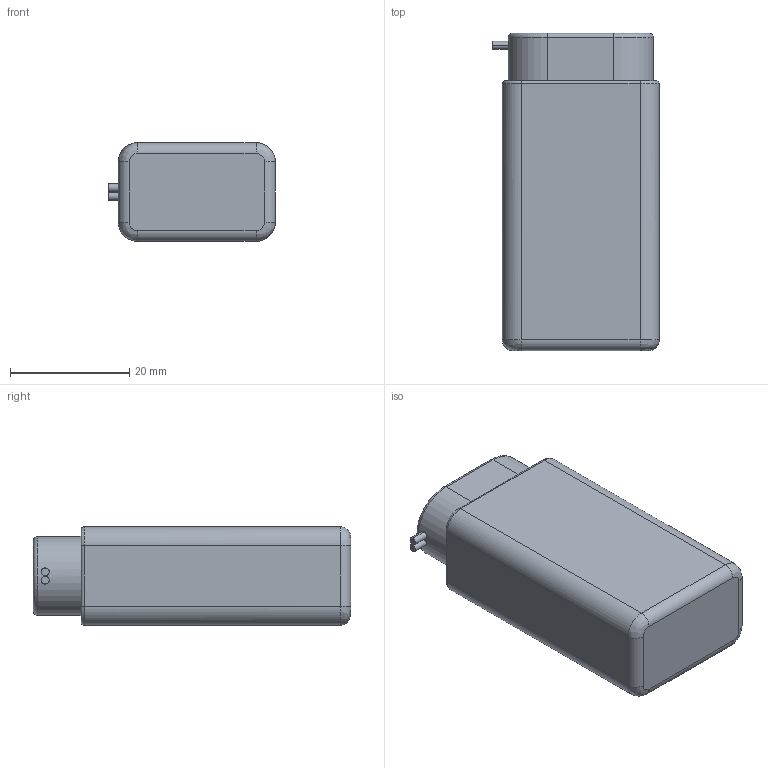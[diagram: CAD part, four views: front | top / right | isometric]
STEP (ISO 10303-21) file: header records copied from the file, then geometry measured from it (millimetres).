
FILE_DESCRIPTION (( 'STEP AP203' ), '1' );
FILE_NAME ('9V Battery (ACP).STEP', '2020-05-02T05:25:37', ( '' ), ( '' ), 'SwSTEP 2.0', 'SolidWorks 2019', '' );
FILE_SCHEMA (( 'CONFIG_CONTROL_DESIGN' ));
Length unit declared in the file: millimetre
Products named in the file (1): 9V Battery (ACP)
Bounding box: 27.93 x 53.2 x 16.52 mm (x, y, z)
Volume: 21438.8 mm3; surface area: 5859.7 mm2
Topology: 2 solids, 2 shells, 182 faces, 422 edges, 252 vertices
Faces by surface type: bspline 126, plane 46, cylinder 8, torus 2
Entity records: 7793 total; most frequent: CARTESIAN_POINT 4889, ORIENTED_EDGE 844, EDGE_CURVE 422, DIRECTION 292, VERTEX_POINT 252, EDGE_LOOP 190, FACE_OUTER_BOUND 182, ADVANCED_FACE 182
